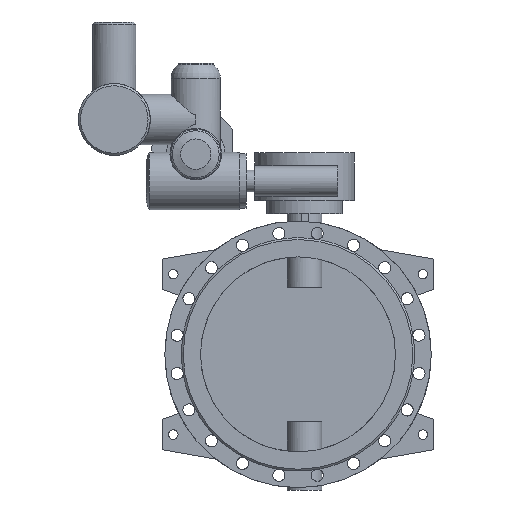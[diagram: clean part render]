
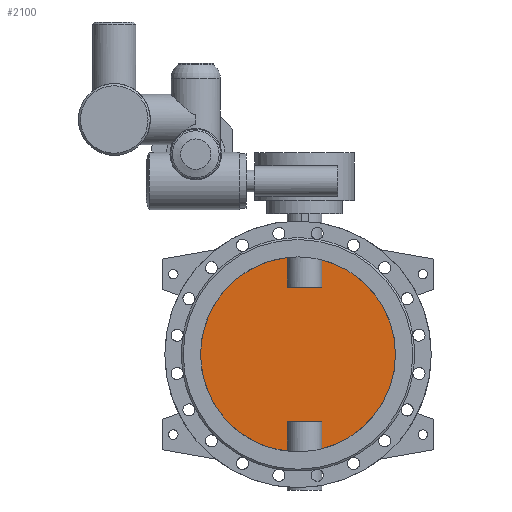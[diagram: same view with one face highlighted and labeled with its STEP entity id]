
A CAD part, front view. The second image highlights one B-rep face of the part: STEP entity #2100.
In plain terms, the highlighted planar face has unit normal (0, -1, 0).
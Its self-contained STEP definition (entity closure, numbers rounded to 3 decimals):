
#2100=ADVANCED_FACE('',(#4135),#4137,.F.);
#4135=FACE_BOUND('',#4136,.T.);
#4136=EDGE_LOOP('',(#5319,#5320,#5321,#5322,#5323,#5324,#5325,#5326));
#4137=PLANE('',#4138);
#4138=AXIS2_PLACEMENT_3D('',#4139,#4140,#4141);
#4139=CARTESIAN_POINT('',(0.,-5.,0.));
#4140=DIRECTION('',(0.,1.,0.));
#4141=DIRECTION('',(1.,0.,0.));
#5319=ORIENTED_EDGE('',*,*,#5912,.T.);
#5320=ORIENTED_EDGE('',*,*,#5917,.T.);
#5321=ORIENTED_EDGE('',*,*,#5918,.T.);
#5322=ORIENTED_EDGE('',*,*,#5919,.T.);
#5323=ORIENTED_EDGE('',*,*,#5914,.T.);
#5324=ORIENTED_EDGE('',*,*,#5920,.T.);
#5325=ORIENTED_EDGE('',*,*,#5921,.T.);
#5326=ORIENTED_EDGE('',*,*,#5922,.T.);
#5912=EDGE_CURVE('',#6941,#6942,#6943,.F.);
#5914=EDGE_CURVE('',#6946,#6944,#6947,.F.);
#5917=EDGE_CURVE('',#6942,#6951,#6952,.T.);
#5918=EDGE_CURVE('',#6951,#6953,#6954,.F.);
#5919=EDGE_CURVE('',#6953,#6946,#6955,.F.);
#5920=EDGE_CURVE('',#6944,#6956,#6957,.F.);
#5921=EDGE_CURVE('',#6956,#6958,#6959,.F.);
#5922=EDGE_CURVE('',#6958,#6941,#6960,.T.);
#6941=VERTEX_POINT('',#13409);
#6942=VERTEX_POINT('',#13410);
#6943=CIRCLE('',#13411,225.);
#6944=VERTEX_POINT('',#13415);
#6946=VERTEX_POINT('',#13501);
#6947=CIRCLE('',#13502,225.);
#6951=VERTEX_POINT('',#13620);
#6952=LINE('',#13621,#13622);
#6953=VERTEX_POINT('',#13624);
#6954=LINE('',#13625,#13626);
#6955=LINE('',#13628,#13629);
#6956=VERTEX_POINT('',#13631);
#6957=LINE('',#13632,#13633);
#6958=VERTEX_POINT('',#13635);
#6959=LINE('',#13636,#13637);
#6960=LINE('',#13639,#13640);
#13409=CARTESIAN_POINT('',(54.686,-5.,-218.253));
#13410=CARTESIAN_POINT('',(54.686,-5.,218.253));
#13411=AXIS2_PLACEMENT_3D('',#13412,#13413,#13414);
#13412=CARTESIAN_POINT('',(0.,-5.,0.));
#13413=DIRECTION('',(0.,1.,0.));
#13414=DIRECTION('',(0.243,0.,0.97));
#13415=CARTESIAN_POINT('',(-24.686,-5.,-223.642));
#13501=CARTESIAN_POINT('',(-24.686,-5.,223.642));
#13502=AXIS2_PLACEMENT_3D('',#13503,#13504,#13505);
#13503=CARTESIAN_POINT('',(0.,-5.,0.));
#13504=DIRECTION('',(0.,1.,0.));
#13505=DIRECTION('',(-0.11,0.,-0.994));
#13620=CARTESIAN_POINT('',(54.686,-5.,155.));
#13621=CARTESIAN_POINT('',(54.686,-5.,218.253));
#13622=VECTOR('',#13623,1.);
#13623=DIRECTION('',(0.,0.,-1.));
#13624=CARTESIAN_POINT('',(-24.686,-5.,155.));
#13625=CARTESIAN_POINT('',(-24.686,-5.,155.));
#13626=VECTOR('',#13627,1.);
#13627=DIRECTION('',(1.,0.,0.));
#13628=CARTESIAN_POINT('',(-24.686,-5.,223.642));
#13629=VECTOR('',#13630,1.);
#13630=DIRECTION('',(0.,0.,-1.));
#13631=CARTESIAN_POINT('',(-24.686,-5.,-155.));
#13632=CARTESIAN_POINT('',(-24.686,-5.,-155.));
#13633=VECTOR('',#13634,1.);
#13634=DIRECTION('',(0.,0.,-1.));
#13635=CARTESIAN_POINT('',(54.686,-5.,-155.));
#13636=CARTESIAN_POINT('',(54.686,-5.,-155.));
#13637=VECTOR('',#13638,1.);
#13638=DIRECTION('',(-1.,0.,0.));
#13639=CARTESIAN_POINT('',(54.686,-5.,-155.));
#13640=VECTOR('',#13641,1.);
#13641=DIRECTION('',(0.,0.,-1.));
